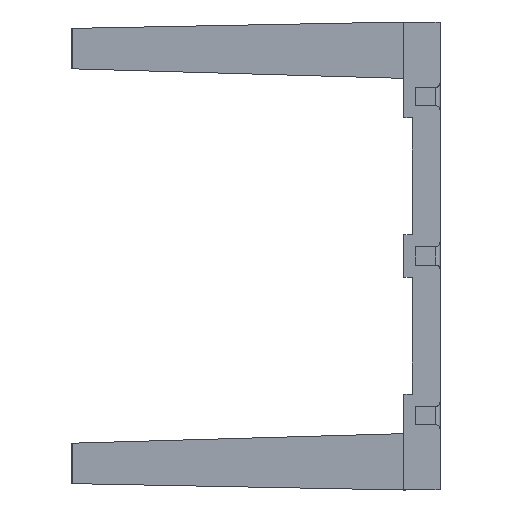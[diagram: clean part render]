
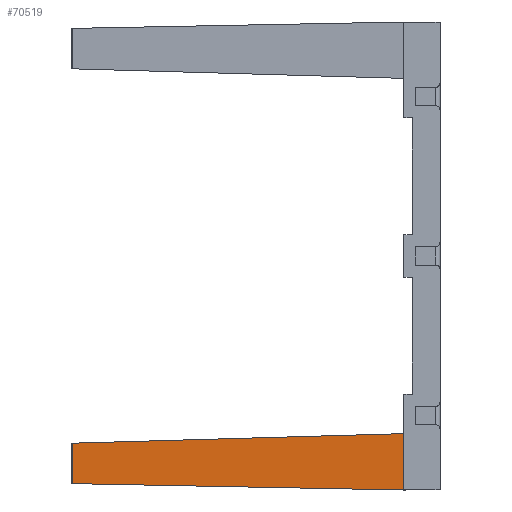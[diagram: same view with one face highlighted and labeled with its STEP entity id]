
A CAD part, left-side view. The second image highlights one B-rep face of the part: STEP entity #70519.
In plain terms, the highlighted planar face has unit normal (-1, 0.019, 0).
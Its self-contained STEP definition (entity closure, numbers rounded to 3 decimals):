
#1482 = CARTESIAN_POINT ( 'NONE',  ( 1.5, 95.001, -195.75 ) ) ;
#7978 = CARTESIAN_POINT ( 'NONE',  ( 3., 173., -198. ) ) ;
#10447 = DIRECTION ( 'NONE',  ( 0., 0., 1. ) ) ;
#13120 = DIRECTION ( 'NONE',  ( -1., 0.019, 0. ) ) ;
#13739 = EDGE_CURVE ( 'NONE', #73963, #119229, #80481, .T. ) ;
#14817 = VERTEX_POINT ( 'NONE', #7978 ) ;
#23470 = ORIENTED_EDGE ( 'NONE', *, *, #73580, .T. ) ;
#25597 = CARTESIAN_POINT ( 'NONE',  ( 0., 17.001, 0. ) ) ;
#32834 = VECTOR ( 'NONE', #56609, 1000. ) ;
#34661 = CARTESIAN_POINT ( 'NONE',  ( 3., 173., -220. ) ) ;
#34909 = EDGE_CURVE ( 'NONE', #83916, #119229, #49132, .T. ) ;
#43266 = VECTOR ( 'NONE', #72915, 1000. ) ;
#49132 = LINE ( 'NONE', #25597, #32834 ) ;
#54547 = CARTESIAN_POINT ( 'NONE',  ( 3., 173., -217. ) ) ;
#56609 = DIRECTION ( 'NONE',  ( 0., 0., -1. ) ) ;
#60973 = VECTOR ( 'NONE', #93520, 1000. ) ;
#64328 = CARTESIAN_POINT ( 'NONE',  ( 0., 17.001, -220. ) ) ;
#64435 = CARTESIAN_POINT ( 'NONE',  ( 0., 17.001, -220. ) ) ;
#65154 = ORIENTED_EDGE ( 'NONE', *, *, #13739, .T. ) ;
#70519 = ADVANCED_FACE ( 'NONE', ( #82562 ), #94027, .T. ) ;
#72915 = DIRECTION ( 'NONE',  ( 0.019, 0.999, -0.029 ) ) ;
#73580 = EDGE_CURVE ( 'NONE', #83916, #14817, #104627, .T. ) ;
#73963 = VERTEX_POINT ( 'NONE', #54547 ) ;
#80481 = LINE ( 'NONE', #90592, #110521 ) ;
#82562 = FACE_OUTER_BOUND ( 'NONE', #92022, .T. ) ;
#83916 = VERTEX_POINT ( 'NONE', #88386 ) ;
#85652 = AXIS2_PLACEMENT_3D ( 'NONE', #64328, #13120, #10447 ) ;
#88386 = CARTESIAN_POINT ( 'NONE',  ( 0., 17., -193.5 ) ) ;
#90592 = CARTESIAN_POINT ( 'NONE',  ( 1.5, 95.001, -218.5 ) ) ;
#92022 = EDGE_LOOP ( 'NONE', ( #114814, #23470, #100992, #65154 ) ) ;
#93520 = DIRECTION ( 'NONE',  ( 0., 0., -1. ) ) ;
#94027 = PLANE ( 'NONE',  #85652 ) ;
#100992 = ORIENTED_EDGE ( 'NONE', *, *, #108793, .T. ) ;
#104627 = LINE ( 'NONE', #1482, #43266 ) ;
#108793 = EDGE_CURVE ( 'NONE', #14817, #73963, #127040, .T. ) ;
#110521 = VECTOR ( 'NONE', #119649, 1000. ) ;
#114814 = ORIENTED_EDGE ( 'NONE', *, *, #34909, .F. ) ;
#119229 = VERTEX_POINT ( 'NONE', #64435 ) ;
#119649 = DIRECTION ( 'NONE',  ( -0.019, -1., -0.019 ) ) ;
#127040 = LINE ( 'NONE', #34661, #60973 ) ;
